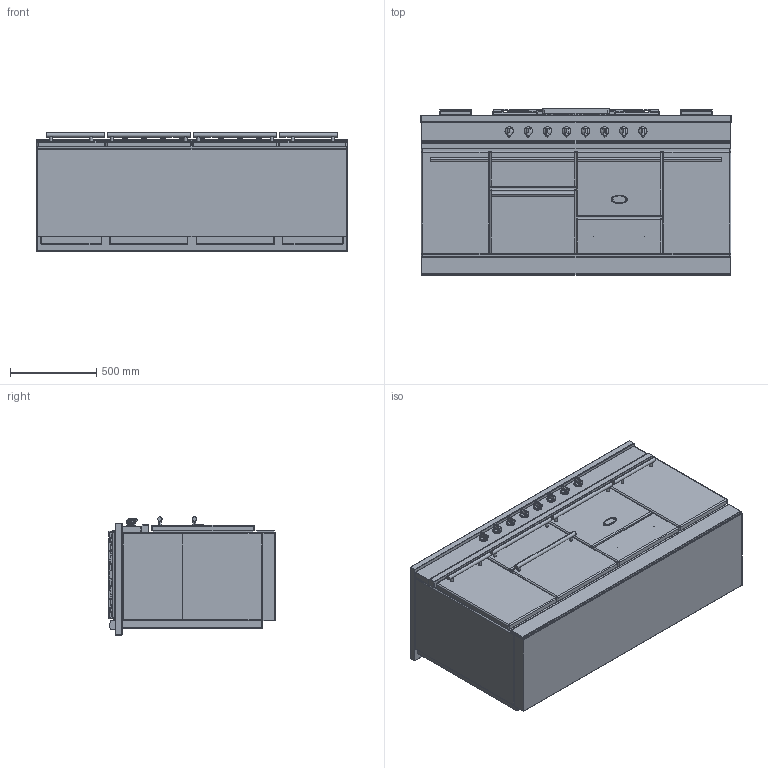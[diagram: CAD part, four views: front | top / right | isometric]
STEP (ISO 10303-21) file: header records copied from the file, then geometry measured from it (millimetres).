
FILE_DESCRIPTION((''),'2;1');
FILE_NAME('LMCF1853_ASM','2022-04-13T11:17:44',('stagiaire'),(''),'CREO PARAMETRIC BY PTC INC, 2021424','CREO PARAMETRIC BY PTC INC, 2021424','');
FILE_SCHEMA(('AP203_CONFIGURATION_CONTROLLED_3D_DESIGN_OF_MECHANICAL_PARTS_AND_ASSEMBLIES_MIM_LF { 1 0 10303 403 2 1 2 }'));
Products named in the file (22): BASE_EXPORT_CHAGNY_1800_MODERN; 65049009; 65650001; 65064012; 19150009; 88064012_ASM; BASE_EXPORT_CHAGNY_1800_MODERN_ASM; TABLE_1805_CLASSIQUE; 3KW; 5KW; 1_5KW; 4KW; 65062008; 65062012; 65149005; 90000549_ASM; 6537023; 90000565_ASM; CHEMINEE_2020_LG182_EXPORT_STEP; CHEMINEE_2020_LG371_EXPORT_STEP; TABLE_1805_TRADITION_ASM; LMCF1853_ASM
Assembly tree (39 placements, depth 4):
  LMCF1853_ASM
    BASE_EXPORT_CHAGNY_1800_MODERN_ASM
      BASE_EXPORT_CHAGNY_1800_MODERN
      65049009
      65650001
      88064012_ASM  x8
        65064012
        19150009
    TABLE_1805_TRADITION_ASM
      TABLE_1805_CLASSIQUE
      3KW  x2
      5KW
      1_5KW
      4KW
      90000549_ASM
        65062008
        65062012
        65149005  x4
      90000565_ASM  x2
        6537023
        65149005
      CHEMINEE_2020_LG182_EXPORT_STEP  x2
      CHEMINEE_2020_LG371_EXPORT_STEP  x2
Bounding box: 1805 x 967 x 687.75 mm (x, y, z)
Volume: 658744145.2 mm3; surface area: 16026766 mm2
Topology: 49 solids, 49 shells, 7680 faces, 20875 edges, 13246 vertices
Faces by surface type: plane 3164, cylinder 2317, bspline 1204, sphere 432, cone 267, torus 254, extrusion 42
Entity records: 212998 total; most frequent: CARTESIAN_POINT 60239, ORIENTED_EDGE 24918, DIRECTION 23263, EDGE_CURVE 12459, PRESENTATION_STYLE_ASSIGNMENT 8956, STYLED_ITEM 8956, CURVE_STYLE 8747, VECTOR 8552
